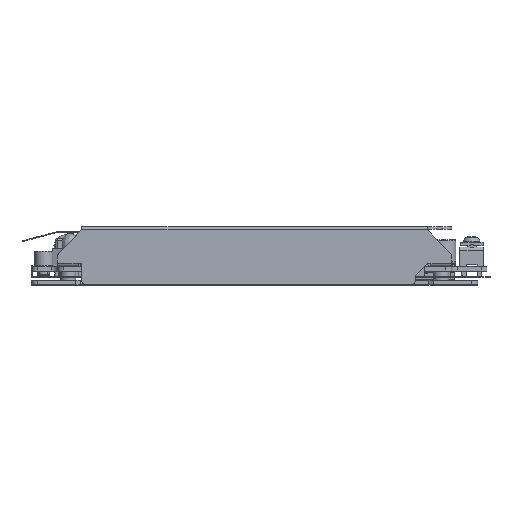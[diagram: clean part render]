
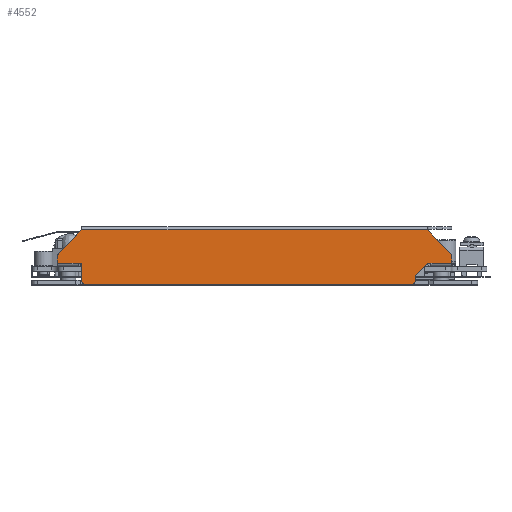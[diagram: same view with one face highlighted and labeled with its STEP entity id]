
A CAD part, top view. The second image highlights one B-rep face of the part: STEP entity #4552.
In plain terms, the highlighted planar face has unit normal (0, 0, 1).
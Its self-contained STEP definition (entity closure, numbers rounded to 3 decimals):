
#2773=DIRECTION('',(-1.,0.,0.));
#2774=VECTOR('',#2773,113.);
#2775=CARTESIAN_POINT('',(56.5,18.,27.5));
#2776=LINE('',#2775,#2774);
#2781=CARTESIAN_POINT('',(-62.5,9.172,27.5));
#2782=DIRECTION('',(0.,0.,-1.));
#2783=DIRECTION('',(-1.,0.,0.));
#2784=AXIS2_PLACEMENT_3D('',#2781,#2782,#2783);
#2786=DIRECTION('',(0.707,0.707,0.));
#2787=VECTOR('',#2786,10.485);
#2788=CARTESIAN_POINT('',(-63.914,10.586,27.5));
#2789=LINE('',#2788,#2787);
#2790=DIRECTION('',(0.707,-0.707,0.));
#2791=VECTOR('',#2790,10.485);
#2792=CARTESIAN_POINT('',(56.5,18.,27.5));
#2793=LINE('',#2792,#2791);
#2794=CARTESIAN_POINT('',(62.5,9.172,27.5));
#2795=DIRECTION('',(0.,0.,-1.));
#2796=DIRECTION('',(0.707,0.707,0.));
#2797=AXIS2_PLACEMENT_3D('',#2794,#2795,#2796);
#2799=DIRECTION('',(-0.707,-0.707,0.));
#2800=VECTOR('',#2799,5.657);
#2801=CARTESIAN_POINT('',(56.5,7.1,27.5));
#2802=LINE('',#2801,#2800);
#2803=DIRECTION('',(0.,-1.,0.));
#2804=VECTOR('',#2803,1.9);
#2805=CARTESIAN_POINT('',(52.5,3.1,27.5));
#2806=LINE('',#2805,#2804);
#2807=CARTESIAN_POINT('',(51.5,1.2,27.5));
#2808=DIRECTION('',(0.,0.,-1.));
#2809=DIRECTION('',(1.,0.,0.));
#2810=AXIS2_PLACEMENT_3D('',#2807,#2808,#2809);
#2812=DIRECTION('',(-1.,0.,0.));
#2813=VECTOR('',#2812,107.);
#2814=CARTESIAN_POINT('',(51.5,0.2,27.5));
#2815=LINE('',#2814,#2813);
#2816=CARTESIAN_POINT('',(-55.5,1.2,27.5));
#2817=DIRECTION('',(0.,0.,-1.));
#2818=DIRECTION('',(0.,-1.,0.));
#2819=AXIS2_PLACEMENT_3D('',#2816,#2817,#2818);
#2821=DIRECTION('',(0.,1.,0.));
#2822=VECTOR('',#2821,4.9);
#2823=CARTESIAN_POINT('',(-56.5,1.2,27.5));
#2824=LINE('',#2823,#2822);
#2825=DIRECTION('',(-1.,0.,0.));
#2826=VECTOR('',#2825,1.2);
#2827=CARTESIAN_POINT('',(-56.5,7.1,27.5));
#2828=LINE('',#2827,#2826);
#2837=DIRECTION('',(0.,-1.,0.));
#2838=VECTOR('',#2837,2.072);
#2839=CARTESIAN_POINT('',(-64.5,9.172,27.5));
#2840=LINE('',#2839,#2838);
#2859=DIRECTION('',(1.,0.,0.));
#2860=VECTOR('',#2859,6.8);
#2861=CARTESIAN_POINT('',(-64.5,7.1,27.5));
#2862=LINE('',#2861,#2860);
#2893=DIRECTION('',(0.,-1.,0.));
#2894=VECTOR('',#2893,1.);
#2895=CARTESIAN_POINT('',(-56.5,7.1,27.5));
#2896=LINE('',#2895,#2894);
#2937=DIRECTION('',(1.,0.,0.));
#2938=VECTOR('',#2937,1.2);
#2939=CARTESIAN_POINT('',(56.5,7.1,27.5));
#2940=LINE('',#2939,#2938);
#2955=DIRECTION('',(1.,0.,0.));
#2956=VECTOR('',#2955,6.8);
#2957=CARTESIAN_POINT('',(57.7,7.1,27.5));
#2958=LINE('',#2957,#2956);
#2985=DIRECTION('',(0.,1.,0.));
#2986=VECTOR('',#2985,2.072);
#2987=CARTESIAN_POINT('',(64.5,7.1,27.5));
#2988=LINE('',#2987,#2986);
#3895=CARTESIAN_POINT('',(-56.5,18.,27.5));
#3896=VERTEX_POINT('',#3895);
#3899=CARTESIAN_POINT('',(56.5,18.,27.5));
#3900=VERTEX_POINT('',#3899);
#3901=CARTESIAN_POINT('',(-64.5,9.172,27.5));
#3902=CARTESIAN_POINT('',(-63.914,10.586,27.5));
#3903=VERTEX_POINT('',#3901);
#3904=VERTEX_POINT('',#3902);
#3905=CARTESIAN_POINT('',(63.914,10.586,27.5));
#3906=VERTEX_POINT('',#3905);
#3907=CARTESIAN_POINT('',(64.5,9.172,27.5));
#3908=VERTEX_POINT('',#3907);
#3909=CARTESIAN_POINT('',(64.5,7.1,27.5));
#3910=VERTEX_POINT('',#3909);
#3911=CARTESIAN_POINT('',(57.7,7.1,27.5));
#3912=VERTEX_POINT('',#3911);
#3913=CARTESIAN_POINT('',(56.5,7.1,27.5));
#3914=VERTEX_POINT('',#3913);
#3915=CARTESIAN_POINT('',(52.5,3.1,27.5));
#3916=VERTEX_POINT('',#3915);
#3917=CARTESIAN_POINT('',(52.5,1.2,27.5));
#3918=VERTEX_POINT('',#3917);
#3919=CARTESIAN_POINT('',(51.5,0.2,27.5));
#3920=VERTEX_POINT('',#3919);
#3921=CARTESIAN_POINT('',(-55.5,0.2,27.5));
#3922=VERTEX_POINT('',#3921);
#3923=CARTESIAN_POINT('',(-56.5,1.2,27.5));
#3924=VERTEX_POINT('',#3923);
#3925=CARTESIAN_POINT('',(-56.5,6.1,27.5));
#3926=VERTEX_POINT('',#3925);
#3927=CARTESIAN_POINT('',(-56.5,7.1,27.5));
#3928=VERTEX_POINT('',#3927);
#3929=CARTESIAN_POINT('',(-57.7,7.1,27.5));
#3930=VERTEX_POINT('',#3929);
#3931=CARTESIAN_POINT('',(-64.5,7.1,27.5));
#3932=VERTEX_POINT('',#3931);
#4510=CARTESIAN_POINT('',(-56.5,19.,27.5));
#4511=DIRECTION('',(0.,0.,1.));
#4512=DIRECTION('',(-1.,0.,0.));
#4513=AXIS2_PLACEMENT_3D('',#4510,#4511,#4512);
#4514=PLANE('',#4513);
#4516=ORIENTED_EDGE('',*,*,#4515,.T.);
#4518=ORIENTED_EDGE('',*,*,#4517,.T.);
#4519=ORIENTED_EDGE('',*,*,#4494,.F.);
#4521=ORIENTED_EDGE('',*,*,#4520,.T.);
#4523=ORIENTED_EDGE('',*,*,#4522,.T.);
#4525=ORIENTED_EDGE('',*,*,#4524,.F.);
#4527=ORIENTED_EDGE('',*,*,#4526,.F.);
#4529=ORIENTED_EDGE('',*,*,#4528,.F.);
#4531=ORIENTED_EDGE('',*,*,#4530,.T.);
#4533=ORIENTED_EDGE('',*,*,#4532,.T.);
#4535=ORIENTED_EDGE('',*,*,#4534,.T.);
#4537=ORIENTED_EDGE('',*,*,#4536,.T.);
#4539=ORIENTED_EDGE('',*,*,#4538,.T.);
#4541=ORIENTED_EDGE('',*,*,#4540,.T.);
#4543=ORIENTED_EDGE('',*,*,#4542,.F.);
#4545=ORIENTED_EDGE('',*,*,#4544,.T.);
#4547=ORIENTED_EDGE('',*,*,#4546,.F.);
#4549=ORIENTED_EDGE('',*,*,#4548,.F.);
#4550=EDGE_LOOP('',(#4516,#4518,#4519,#4521,#4523,#4525,#4527,#4529,#4531,#4533,
#4535,#4537,#4539,#4541,#4543,#4545,#4547,#4549));
#4551=FACE_OUTER_BOUND('',#4550,.F.);
#4552=ADVANCED_FACE('',(#4551),#4514,.T.);
#2785=CIRCLE('',#2784,2.);
#2798=CIRCLE('',#2797,2.);
#2811=CIRCLE('',#2810,1.);
#2820=CIRCLE('',#2819,1.);
#4494=EDGE_CURVE('',#3900,#3896,#2776,.T.);
#4515=EDGE_CURVE('',#3903,#3904,#2785,.T.);
#4517=EDGE_CURVE('',#3904,#3896,#2789,.T.);
#4520=EDGE_CURVE('',#3900,#3906,#2793,.T.);
#4522=EDGE_CURVE('',#3906,#3908,#2798,.T.);
#4524=EDGE_CURVE('',#3910,#3908,#2988,.T.);
#4526=EDGE_CURVE('',#3912,#3910,#2958,.T.);
#4528=EDGE_CURVE('',#3914,#3912,#2940,.T.);
#4530=EDGE_CURVE('',#3914,#3916,#2802,.T.);
#4532=EDGE_CURVE('',#3916,#3918,#2806,.T.);
#4534=EDGE_CURVE('',#3918,#3920,#2811,.T.);
#4536=EDGE_CURVE('',#3920,#3922,#2815,.T.);
#4538=EDGE_CURVE('',#3922,#3924,#2820,.T.);
#4540=EDGE_CURVE('',#3924,#3926,#2824,.T.);
#4542=EDGE_CURVE('',#3928,#3926,#2896,.T.);
#4544=EDGE_CURVE('',#3928,#3930,#2828,.T.);
#4546=EDGE_CURVE('',#3932,#3930,#2862,.T.);
#4548=EDGE_CURVE('',#3903,#3932,#2840,.T.);
